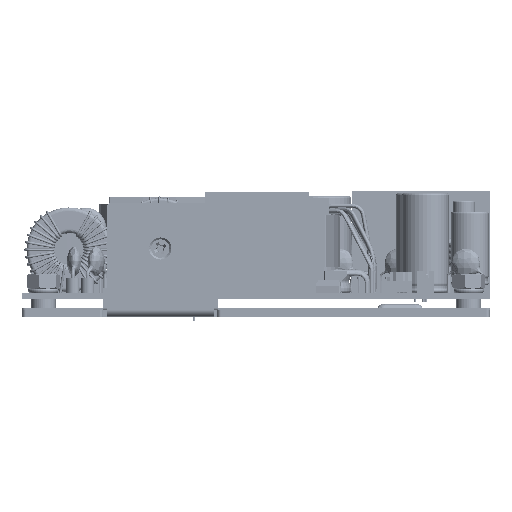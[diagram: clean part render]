
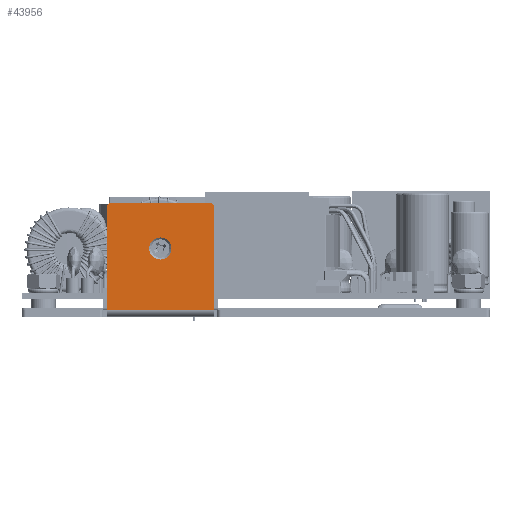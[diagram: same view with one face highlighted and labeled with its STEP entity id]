
A CAD part, front view. The second image highlights one B-rep face of the part: STEP entity #43956.
In plain terms, the highlighted planar face has unit normal (0, -1, 0) as drawn and (0, 0, 1) by its records, which use the part's own axes.
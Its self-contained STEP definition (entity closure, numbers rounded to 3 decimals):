
#2845 = CARTESIAN_POINT ( 'NONE',  ( -11.5, 30., 38.1 ) ) ;
#6024 = ORIENTED_EDGE ( 'NONE', *, *, #142471, .T. ) ;
#6330 = CARTESIAN_POINT ( 'NONE',  ( -40.5, 31., 38.1 ) ) ;
#9285 = VERTEX_POINT ( 'NONE', #102971 ) ;
#16209 = DIRECTION ( 'NONE',  ( 0., 0., 1. ) ) ;
#17760 = CARTESIAN_POINT ( 'NONE',  ( -11.5, 31., 38.1 ) ) ;
#18568 = AXIS2_PLACEMENT_3D ( 'NONE', #135514, #205979, #188649 ) ;
#30767 = EDGE_CURVE ( 'NONE', #206781, #9285, #190103, .T. ) ;
#34703 = FACE_OUTER_BOUND ( 'NONE', #98219, .T. ) ;
#36504 = AXIS2_PLACEMENT_3D ( 'NONE', #134679, #77964, #98874 ) ;
#39912 = LINE ( 'NONE', #17760, #100505 ) ;
#40265 = AXIS2_PLACEMENT_3D ( 'NONE', #109916, #16209, #74127 ) ;
#43455 = VERTEX_POINT ( 'NONE', #127516 ) ;
#43956 = ADVANCED_FACE ( 'NONE', ( #128417, #34703 ), #243273, .T. ) ;
#45174 = ORIENTED_EDGE ( 'NONE', *, *, #142830, .F. ) ;
#56192 = CIRCLE ( 'NONE', #36504, 3. ) ;
#61053 = ORIENTED_EDGE ( 'NONE', *, *, #125951, .T. ) ;
#74127 = DIRECTION ( 'NONE',  ( 1., 0., 0. ) ) ;
#77806 = DIRECTION ( 'NONE',  ( -1., 0., 0. ) ) ;
#77964 = DIRECTION ( 'NONE',  ( 0., 0., 1. ) ) ;
#79056 = ORIENTED_EDGE ( 'NONE', *, *, #197568, .F. ) ;
#82644 = AXIS2_PLACEMENT_3D ( 'NONE', #130120, #205454, #143741 ) ;
#98219 = EDGE_LOOP ( 'NONE', ( #136621, #152932, #6024, #138527, #79056, #61053 ) ) ;
#98874 = DIRECTION ( 'NONE',  ( 1., 0., 0. ) ) ;
#99675 = EDGE_CURVE ( 'NONE', #43455, #155438, #214004, .T. ) ;
#100505 = VECTOR ( 'NONE', #152124, 1000. ) ;
#102971 = CARTESIAN_POINT ( 'NONE',  ( -39.5, 31., 38.1 ) ) ;
#106386 = VERTEX_POINT ( 'NONE', #146891 ) ;
#109916 = CARTESIAN_POINT ( 'NONE',  ( -40.5, 31., 38.1 ) ) ;
#113265 = VECTOR ( 'NONE', #77806, 1000. ) ;
#114498 = CARTESIAN_POINT ( 'NONE',  ( -29.013, 18.6, 38.1 ) ) ;
#114890 = CIRCLE ( 'NONE', #146377, 3. ) ;
#118112 = CARTESIAN_POINT ( 'NONE',  ( -26.013, 18.6, 38.1 ) ) ;
#119747 = LINE ( 'NONE', #6330, #123072 ) ;
#123072 = VECTOR ( 'NONE', #171694, 1000. ) ;
#125951 = EDGE_CURVE ( 'NONE', #204795, #206781, #165416, .T. ) ;
#127516 = CARTESIAN_POINT ( 'NONE',  ( -40.5, 2., 38.1 ) ) ;
#128417 = FACE_BOUND ( 'NONE', #222184, .T. ) ;
#130120 = CARTESIAN_POINT ( 'NONE',  ( -12.5, 30., 38.1 ) ) ;
#132149 = VERTEX_POINT ( 'NONE', #114498 ) ;
#134679 = CARTESIAN_POINT ( 'NONE',  ( -26.013, 18.6, 38.1 ) ) ;
#135514 = CARTESIAN_POINT ( 'NONE',  ( -39.5, 30., 38.1 ) ) ;
#136621 = ORIENTED_EDGE ( 'NONE', *, *, #30767, .T. ) ;
#138527 = ORIENTED_EDGE ( 'NONE', *, *, #99675, .T. ) ;
#142471 = EDGE_CURVE ( 'NONE', #225850, #43455, #119747, .T. ) ;
#142830 = EDGE_CURVE ( 'NONE', #106386, #132149, #56192, .T. ) ;
#143741 = DIRECTION ( 'NONE',  ( 1., 0., 0. ) ) ;
#146377 = AXIS2_PLACEMENT_3D ( 'NONE', #118112, #179756, #177305 ) ;
#146891 = CARTESIAN_POINT ( 'NONE',  ( -23.013, 18.6, 38.1 ) ) ;
#152124 = DIRECTION ( 'NONE',  ( 0., -1., 0. ) ) ;
#152932 = ORIENTED_EDGE ( 'NONE', *, *, #240227, .T. ) ;
#155438 = VERTEX_POINT ( 'NONE', #210029 ) ;
#165416 = CIRCLE ( 'NONE', #82644, 1. ) ;
#171568 = CARTESIAN_POINT ( 'NONE',  ( -40.5, 31., 38.1 ) ) ;
#171694 = DIRECTION ( 'NONE',  ( 0., -1., 0. ) ) ;
#172081 = CARTESIAN_POINT ( 'NONE',  ( -40.5, 2., 38.1 ) ) ;
#177305 = DIRECTION ( 'NONE',  ( 1., 0., 0. ) ) ;
#179756 = DIRECTION ( 'NONE',  ( 0., 0., 1. ) ) ;
#188649 = DIRECTION ( 'NONE',  ( 1., 0., 0. ) ) ;
#190103 = LINE ( 'NONE', #171568, #113265 ) ;
#195858 = CARTESIAN_POINT ( 'NONE',  ( -12.5, 31., 38.1 ) ) ;
#197568 = EDGE_CURVE ( 'NONE', #204795, #155438, #39912, .T. ) ;
#204132 = CARTESIAN_POINT ( 'NONE',  ( -40.5, 30., 38.1 ) ) ;
#204795 = VERTEX_POINT ( 'NONE', #2845 ) ;
#205454 = DIRECTION ( 'NONE',  ( 0., 0., 1. ) ) ;
#205979 = DIRECTION ( 'NONE',  ( 0., 0., 1. ) ) ;
#206781 = VERTEX_POINT ( 'NONE', #195858 ) ;
#210029 = CARTESIAN_POINT ( 'NONE',  ( -11.5, 2., 38.1 ) ) ;
#212790 = DIRECTION ( 'NONE',  ( 1., 0., 0. ) ) ;
#214004 = LINE ( 'NONE', #172081, #214676 ) ;
#214676 = VECTOR ( 'NONE', #212790, 1000. ) ;
#222184 = EDGE_LOOP ( 'NONE', ( #45174, #243058 ) ) ;
#225850 = VERTEX_POINT ( 'NONE', #204132 ) ;
#231354 = CIRCLE ( 'NONE', #18568, 1. ) ;
#235093 = EDGE_CURVE ( 'NONE', #132149, #106386, #114890, .T. ) ;
#240227 = EDGE_CURVE ( 'NONE', #9285, #225850, #231354, .T. ) ;
#243058 = ORIENTED_EDGE ( 'NONE', *, *, #235093, .F. ) ;
#243273 = PLANE ( 'NONE',  #40265 ) ;
